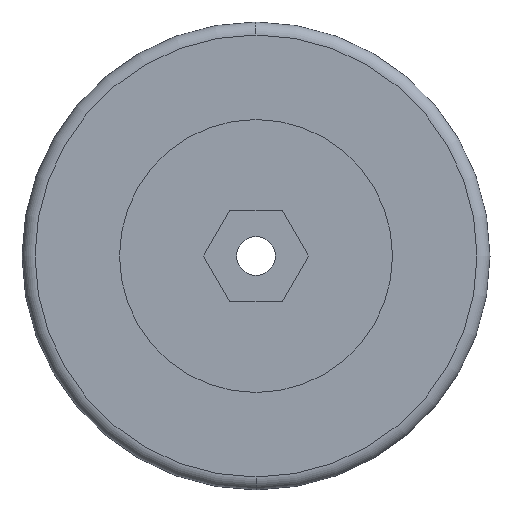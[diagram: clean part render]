
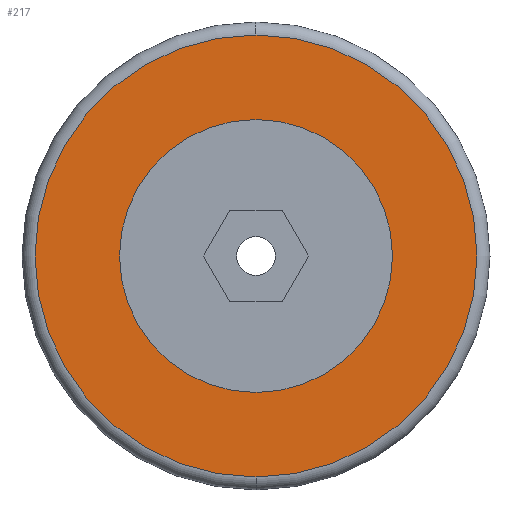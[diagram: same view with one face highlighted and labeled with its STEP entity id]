
A CAD part, left-side view. The second image highlights one B-rep face of the part: STEP entity #217.
In plain terms, the highlighted planar face has unit normal (-1, 0, 0).
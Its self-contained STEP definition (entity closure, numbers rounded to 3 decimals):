
#217 = ADVANCED_FACE ( 'NONE', ( #1347, #967 ), #1208, .F. ) ;
#244 = DIRECTION ( 'NONE',  ( 0., 0., -1. ) ) ;
#289 = CIRCLE ( 'NONE', #1056, 21. ) ;
#483 = ORIENTED_EDGE ( 'NONE', *, *, #961, .T. ) ;
#493 = VERTEX_POINT ( 'NONE', #804 ) ;
#501 = CARTESIAN_POINT ( 'NONE',  ( 0., 0., 0. ) ) ;
#515 = AXIS2_PLACEMENT_3D ( 'NONE', #1395, #663, #1513 ) ;
#548 = EDGE_LOOP ( 'NONE', ( #1467, #483 ) ) ;
#551 = CIRCLE ( 'NONE', #1333, 21. ) ;
#571 = EDGE_LOOP ( 'NONE', ( #1335, #1106 ) ) ;
#627 = DIRECTION ( 'NONE',  ( 0., 0., -1. ) ) ;
#663 = DIRECTION ( 'NONE',  ( -1., 0., 0. ) ) ;
#671 = CARTESIAN_POINT ( 'NONE',  ( 0., 0., 0. ) ) ;
#677 = CARTESIAN_POINT ( 'NONE',  ( 0., 0., -34. ) ) ;
#696 = CARTESIAN_POINT ( 'NONE',  ( 0., 0., 0. ) ) ;
#758 = AXIS2_PLACEMENT_3D ( 'NONE', #671, #1517, #794 ) ;
#794 = DIRECTION ( 'NONE',  ( 0., 0., -1. ) ) ;
#804 = CARTESIAN_POINT ( 'NONE',  ( 0., 0., 21. ) ) ;
#864 = VERTEX_POINT ( 'NONE', #1194 ) ;
#961 = EDGE_CURVE ( 'NONE', #1219, #1008, #1147, .T. ) ;
#967 = FACE_BOUND ( 'NONE', #571, .T. ) ;
#978 = EDGE_CURVE ( 'NONE', #1008, #1219, #1557, .T. ) ;
#1008 = VERTEX_POINT ( 'NONE', #677 ) ;
#1027 = AXIS2_PLACEMENT_3D ( 'NONE', #1258, #1193, #244 ) ;
#1055 = EDGE_CURVE ( 'NONE', #864, #493, #551, .T. ) ;
#1056 = AXIS2_PLACEMENT_3D ( 'NONE', #501, #1353, #627 ) ;
#1106 = ORIENTED_EDGE ( 'NONE', *, *, #1055, .T. ) ;
#1147 = CIRCLE ( 'NONE', #515, 34. ) ;
#1193 = DIRECTION ( 'NONE',  ( 1., 0., 0. ) ) ;
#1194 = CARTESIAN_POINT ( 'NONE',  ( 0., 0., -21. ) ) ;
#1208 = PLANE ( 'NONE',  #1027 ) ;
#1219 = VERTEX_POINT ( 'NONE', #1543 ) ;
#1258 = CARTESIAN_POINT ( 'NONE',  ( 0., 0., 0. ) ) ;
#1277 = DIRECTION ( 'NONE',  ( 0., 0., -1. ) ) ;
#1300 = EDGE_CURVE ( 'NONE', #493, #864, #289, .T. ) ;
#1333 = AXIS2_PLACEMENT_3D ( 'NONE', #696, #1538, #1277 ) ;
#1335 = ORIENTED_EDGE ( 'NONE', *, *, #1300, .T. ) ;
#1347 = FACE_OUTER_BOUND ( 'NONE', #548, .T. ) ;
#1353 = DIRECTION ( 'NONE',  ( 1., 0., 0. ) ) ;
#1395 = CARTESIAN_POINT ( 'NONE',  ( 0., 0., 0. ) ) ;
#1467 = ORIENTED_EDGE ( 'NONE', *, *, #978, .T. ) ;
#1513 = DIRECTION ( 'NONE',  ( 0., 0., -1. ) ) ;
#1517 = DIRECTION ( 'NONE',  ( -1., 0., 0. ) ) ;
#1538 = DIRECTION ( 'NONE',  ( 1., 0., 0. ) ) ;
#1543 = CARTESIAN_POINT ( 'NONE',  ( 0., 0., 34. ) ) ;
#1557 = CIRCLE ( 'NONE', #758, 34. ) ;
